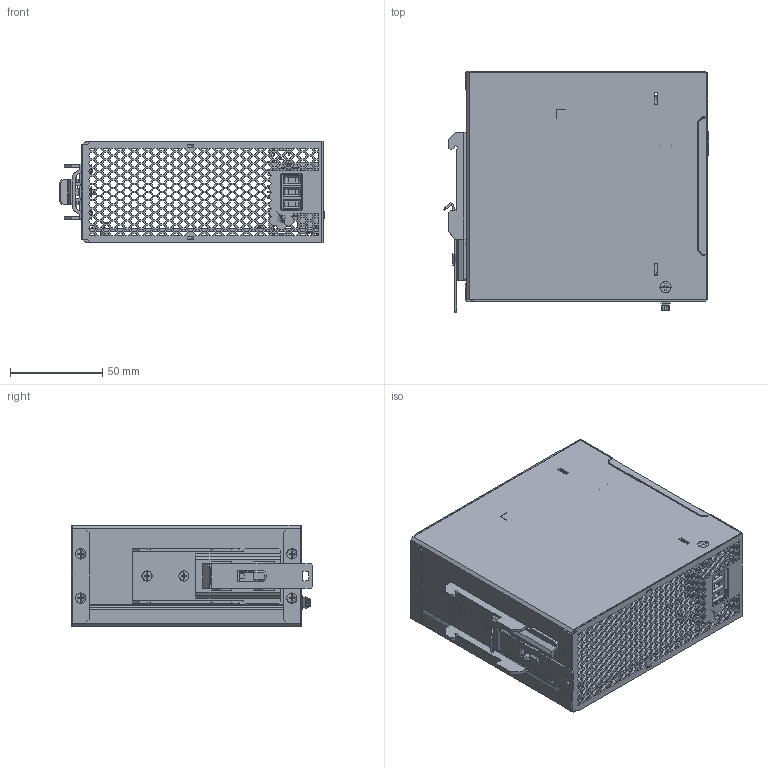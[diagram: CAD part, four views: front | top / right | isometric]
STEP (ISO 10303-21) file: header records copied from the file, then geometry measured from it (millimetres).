
FILE_DESCRIPTION(/* description */ (''),/* implementation_level */ '2;1');
FILE_NAME(/* name */ 'DR480S',/* time_stamp */ '2025-08-04T11:06:36+08:00',/* author */ (''),/* organization */ (''),/* preprocessor_version */ 'ST-DEVELOPER v16.5',/* originating_system */ '',/* authorisation */ '');
FILE_SCHEMA (('AUTOMOTIVE_DESIGN'));
Products named in the file (2): Document; Block 31
Assembly tree (1 placements, depth 2):
  Document
    Block 31
Bounding box: 144.24 x 131.2 x 55 mm (x, y, z)
Volume: 127469.1 mm3; surface area: 209076.8 mm2
Topology: 98 solids, 99 shells, 7861 faces, 21810 edges, 14285 vertices
Faces by surface type: plane 5936, bspline 1925
Entity records: 300281 total; most frequent: CARTESIAN_POINT 154781, ORIENTED_EDGE 43494, EDGE_CURVE 21749, B_SPLINE_CURVE_WITH_KNOTS 19286, VERTEX_POINT 14267, EDGE_LOOP 9831, ADVANCED_FACE 7861, FACE_OUTER_BOUND 7861
